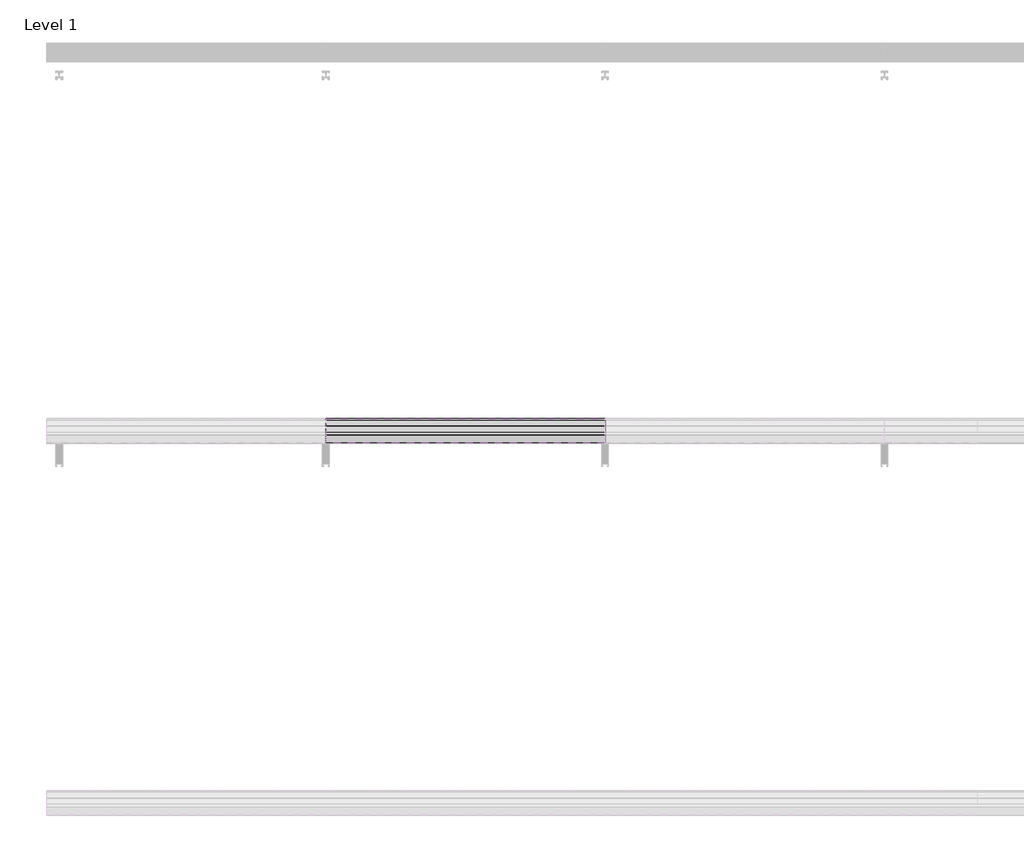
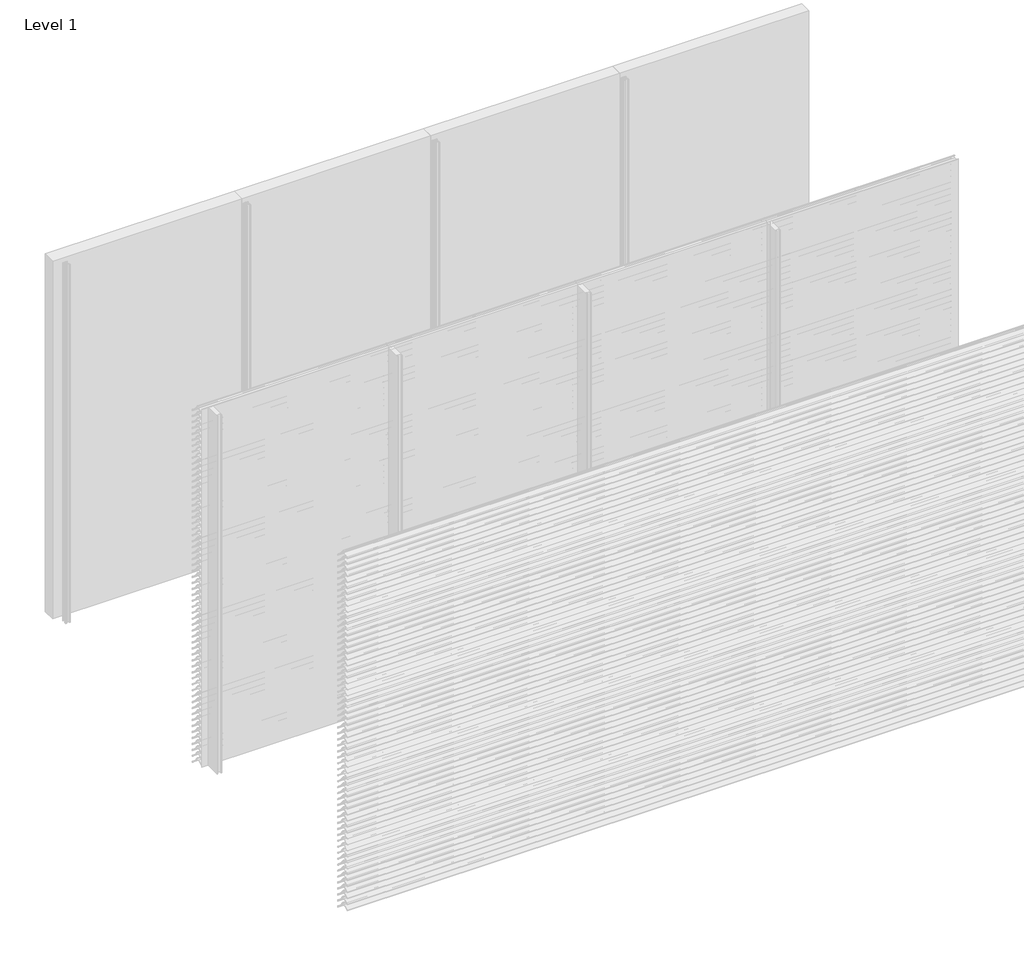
# One storey, part 29 of 173: 18 proxies.
"""IFC4 building model written with IfcOpenShell, lengths in millimetres."""

from ifc_helpers import new_model, si_unit, point, frame, frame_2d, origin, place, context, project, spatial, polyline, circle_curve, trimmed, segment, composite_curve, outline, extrude, element, save

model = new_model("IFC4")

# Units and contexts
model_context = context("Model", 3, world=origin())
ifc_project = project(units=[si_unit("LENGTHUNIT", "METRE", prefix="MILLI")], contexts=[model_context])

# Site, building, storey
site = spatial("IfcSite", under=ifc_project)
building = spatial("IfcBuilding", under=site)
storey = spatial("IfcBuildingStorey", under=building, Name="Level 1", Elevation=0.0)

# Proxies
placement = place(None, origin())
element("IfcBuildingElementProxy", 1, Name="Wall Sweeps", at=placement, inside=storey, context=model_context, shape_type="SweptSolid", body=[
    extrude(outline(composite_curve([segment(polyline([(-47998.0, 1259.1474905), (-47998.0, 1261.6227417)]), True, "CONTINUOUS"), segment(trimmed(circle_curve(frame_2d((-47951.2682172, 1216.2200208)), 65.1557103), [point((-47998.0, 1261.6227417))], [point((-47954.4014323, 1281.3003524))], False, "CARTESIAN"), True, "CONTINUOUS"), segment(polyline([(-47954.4014323, 1281.3003524), (-47934.8315836, 1281.3003524)]), True, "CONTINUOUS"), segment(trimmed(circle_curve(frame_2d((-47732.7329489, 1428.5533172)), 250.0545817), [point((-47934.8315836, 1281.3003524))], [point((-47941.4452143, 1290.8344583))], False, "CARTESIAN"), True, "CONTINUOUS"), segment(trimmed(circle_curve(frame_2d((-47953.2981792, 1285.1737835)), 13.1352966), [point((-47941.4452143, 1290.8344583))], [point((-47953.8171475, 1298.298824))], True, "CARTESIAN"), True, "CONTINUOUS"), segment(polyline([(-47953.8171475, 1298.298824), (-47953.8171475, 1300.0)]), True, "CONTINUOUS"), segment(trimmed(circle_curve(frame_2d((-47953.2981792, 1285.1737835)), 14.8352966), [point((-47953.8171475, 1300.0))], [point((-47939.9637661, 1291.6760487))], False, "CARTESIAN"), True, "CONTINUOUS"), segment(trimmed(circle_curve(frame_2d((-47732.7329489, 1428.5533172)), 248.3545817), [point((-47939.9637661, 1291.6760487))], [point((-47873.8787895, 1224.2059416))], True, "CARTESIAN"), True, "CONTINUOUS"), segment(trimmed(circle_curve(frame_2d((-47883.8147537, 1211.6649442)), 16.0), [point((-47873.8787895, 1224.2059416))], [point((-47867.8648347, 1210.4))], False, "CARTESIAN"), True, "CONTINUOUS"), segment(polyline([(-47867.8648347, 1210.4), (-47869.6712069, 1210.4)]), True, "CONTINUOUS"), segment(trimmed(circle_curve(frame_2d((-47883.8147537, 1211.6649442)), 14.2), [point((-47869.6712069, 1210.4))], [point((-47874.9518628, 1222.7594998))], True, "CARTESIAN"), True, "CONTINUOUS"), segment(trimmed(circle_curve(frame_2d((-47732.7329489, 1428.5533172)), 250.1545817), [point((-47874.9518628, 1222.7594998))], [point((-47933.7064024, 1279.6003524))], False, "CARTESIAN"), True, "CONTINUOUS"), segment(polyline([(-47933.7064024, 1279.6003524), (-47954.3602632, 1279.6003524)]), True, "CONTINUOUS"), segment(trimmed(circle_curve(frame_2d((-47951.2682172, 1216.2200208)), 63.4557103), [point((-47954.3602632, 1279.6003524))], [point((-47998.0, 1259.1474905))], True, "CARTESIAN"), True, "CONTINUOUS")], self_intersect=False)), frame((1500.0, 0.0, 0.0), z_axis=(1.0, 0.0, 0.0), x_axis=(0.0, 1.0, 0.0)), (0.0, 0.0, 1.0), 1500.0),
])
element("IfcBuildingElementProxy", 2, Name="Wall Sweeps", at=placement, inside=storey, context=model_context, shape_type="SweptSolid", body=[
    extrude(outline(composite_curve([segment(polyline([(-47998.0, 1209.1474905), (-47998.0, 1211.6227417)]), True, "CONTINUOUS"), segment(trimmed(circle_curve(frame_2d((-47951.2682172, 1166.2200208)), 65.1557103), [point((-47998.0, 1211.6227417))], [point((-47954.4014323, 1231.3003524))], False, "CARTESIAN"), True, "CONTINUOUS"), segment(polyline([(-47954.4014323, 1231.3003524), (-47934.8315836, 1231.3003524)]), True, "CONTINUOUS"), segment(trimmed(circle_curve(frame_2d((-47732.7329489, 1378.5533172)), 250.0545817), [point((-47934.8315836, 1231.3003524))], [point((-47941.4452143, 1240.8344583))], False, "CARTESIAN"), True, "CONTINUOUS"), segment(trimmed(circle_curve(frame_2d((-47953.2981792, 1235.1737835)), 13.1352966), [point((-47941.4452143, 1240.8344583))], [point((-47953.8171475, 1248.298824))], True, "CARTESIAN"), True, "CONTINUOUS"), segment(polyline([(-47953.8171475, 1248.298824), (-47953.8171475, 1250.0)]), True, "CONTINUOUS"), segment(trimmed(circle_curve(frame_2d((-47953.2981792, 1235.1737835)), 14.8352966), [point((-47953.8171475, 1250.0))], [point((-47939.9637661, 1241.6760487))], False, "CARTESIAN"), True, "CONTINUOUS"), segment(trimmed(circle_curve(frame_2d((-47732.7329489, 1378.5533172)), 248.3545817), [point((-47939.9637661, 1241.6760487))], [point((-47873.8787895, 1174.2059416))], True, "CARTESIAN"), True, "CONTINUOUS"), segment(trimmed(circle_curve(frame_2d((-47883.8147537, 1161.6649442)), 16.0), [point((-47873.8787895, 1174.2059416))], [point((-47867.8648347, 1160.4))], False, "CARTESIAN"), True, "CONTINUOUS"), segment(polyline([(-47867.8648347, 1160.4), (-47869.6712069, 1160.4)]), True, "CONTINUOUS"), segment(trimmed(circle_curve(frame_2d((-47883.8147537, 1161.6649442)), 14.2), [point((-47869.6712069, 1160.4))], [point((-47874.9518628, 1172.7594998))], True, "CARTESIAN"), True, "CONTINUOUS"), segment(trimmed(circle_curve(frame_2d((-47732.7329489, 1378.5533172)), 250.1545817), [point((-47874.9518628, 1172.7594998))], [point((-47933.7064024, 1229.6003524))], False, "CARTESIAN"), True, "CONTINUOUS"), segment(polyline([(-47933.7064024, 1229.6003524), (-47954.3602632, 1229.6003524)]), True, "CONTINUOUS"), segment(trimmed(circle_curve(frame_2d((-47951.2682172, 1166.2200208)), 63.4557103), [point((-47954.3602632, 1229.6003524))], [point((-47998.0, 1209.1474905))], True, "CARTESIAN"), True, "CONTINUOUS")], self_intersect=False)), frame((1500.0, 0.0, 0.0), z_axis=(1.0, 0.0, 0.0), x_axis=(0.0, 1.0, 0.0)), (0.0, 0.0, 1.0), 1500.0),
])
element("IfcBuildingElementProxy", 3, Name="Wall Sweeps", at=placement, inside=storey, context=model_context, shape_type="SweptSolid", body=[
    extrude(outline(composite_curve([segment(polyline([(-47998.0, 1159.1474905), (-47998.0, 1161.6227417)]), True, "CONTINUOUS"), segment(trimmed(circle_curve(frame_2d((-47951.2682172, 1116.2200208)), 65.1557103), [point((-47998.0, 1161.6227417))], [point((-47954.4014323, 1181.3003524))], False, "CARTESIAN"), True, "CONTINUOUS"), segment(polyline([(-47954.4014323, 1181.3003524), (-47934.8315836, 1181.3003524)]), True, "CONTINUOUS"), segment(trimmed(circle_curve(frame_2d((-47732.7329489, 1328.5533172)), 250.0545817), [point((-47934.8315836, 1181.3003524))], [point((-47941.4452143, 1190.8344583))], False, "CARTESIAN"), True, "CONTINUOUS"), segment(trimmed(circle_curve(frame_2d((-47953.2981792, 1185.1737835)), 13.1352966), [point((-47941.4452143, 1190.8344583))], [point((-47953.8171475, 1198.298824))], True, "CARTESIAN"), True, "CONTINUOUS"), segment(polyline([(-47953.8171475, 1198.298824), (-47953.8171475, 1200.0)]), True, "CONTINUOUS"), segment(trimmed(circle_curve(frame_2d((-47953.2981792, 1185.1737835)), 14.8352966), [point((-47953.8171475, 1200.0))], [point((-47939.9637661, 1191.6760487))], False, "CARTESIAN"), True, "CONTINUOUS"), segment(trimmed(circle_curve(frame_2d((-47732.7329489, 1328.5533172)), 248.3545817), [point((-47939.9637661, 1191.6760487))], [point((-47873.8787895, 1124.2059416))], True, "CARTESIAN"), True, "CONTINUOUS"), segment(trimmed(circle_curve(frame_2d((-47883.8147537, 1111.6649442)), 16.0), [point((-47873.8787895, 1124.2059416))], [point((-47867.8648347, 1110.4))], False, "CARTESIAN"), True, "CONTINUOUS"), segment(polyline([(-47867.8648347, 1110.4), (-47869.6712069, 1110.4)]), True, "CONTINUOUS"), segment(trimmed(circle_curve(frame_2d((-47883.8147537, 1111.6649442)), 14.2), [point((-47869.6712069, 1110.4))], [point((-47874.9518628, 1122.7594998))], True, "CARTESIAN"), True, "CONTINUOUS"), segment(trimmed(circle_curve(frame_2d((-47732.7329489, 1328.5533172)), 250.1545817), [point((-47874.9518628, 1122.7594998))], [point((-47933.7064024, 1179.6003524))], False, "CARTESIAN"), True, "CONTINUOUS"), segment(polyline([(-47933.7064024, 1179.6003524), (-47954.3602632, 1179.6003524)]), True, "CONTINUOUS"), segment(trimmed(circle_curve(frame_2d((-47951.2682172, 1116.2200208)), 63.4557103), [point((-47954.3602632, 1179.6003524))], [point((-47998.0, 1159.1474905))], True, "CARTESIAN"), True, "CONTINUOUS")], self_intersect=False)), frame((1500.0, 0.0, 0.0), z_axis=(1.0, 0.0, 0.0), x_axis=(0.0, 1.0, 0.0)), (0.0, 0.0, 1.0), 1500.0),
])
element("IfcBuildingElementProxy", 4, Name="Wall Sweeps", at=placement, inside=storey, context=model_context, shape_type="SweptSolid", body=[
    extrude(outline(composite_curve([segment(polyline([(-47998.0, 1109.1474905), (-47998.0, 1111.6227417)]), True, "CONTINUOUS"), segment(trimmed(circle_curve(frame_2d((-47951.2682172, 1066.2200208)), 65.1557103), [point((-47998.0, 1111.6227417))], [point((-47954.4014323, 1131.3003524))], False, "CARTESIAN"), True, "CONTINUOUS"), segment(polyline([(-47954.4014323, 1131.3003524), (-47934.8315836, 1131.3003524)]), True, "CONTINUOUS"), segment(trimmed(circle_curve(frame_2d((-47732.7329489, 1278.5533172)), 250.0545817), [point((-47934.8315836, 1131.3003524))], [point((-47941.4452143, 1140.8344583))], False, "CARTESIAN"), True, "CONTINUOUS"), segment(trimmed(circle_curve(frame_2d((-47953.2981792, 1135.1737835)), 13.1352966), [point((-47941.4452143, 1140.8344583))], [point((-47953.8171475, 1148.298824))], True, "CARTESIAN"), True, "CONTINUOUS"), segment(polyline([(-47953.8171475, 1148.298824), (-47953.8171475, 1150.0)]), True, "CONTINUOUS"), segment(trimmed(circle_curve(frame_2d((-47953.2981792, 1135.1737835)), 14.8352966), [point((-47953.8171475, 1150.0))], [point((-47939.9637661, 1141.6760487))], False, "CARTESIAN"), True, "CONTINUOUS"), segment(trimmed(circle_curve(frame_2d((-47732.7329489, 1278.5533172)), 248.3545817), [point((-47939.9637661, 1141.6760487))], [point((-47873.8787895, 1074.2059416))], True, "CARTESIAN"), True, "CONTINUOUS"), segment(trimmed(circle_curve(frame_2d((-47883.8147537, 1061.6649442)), 16.0), [point((-47873.8787895, 1074.2059416))], [point((-47867.8648347, 1060.4))], False, "CARTESIAN"), True, "CONTINUOUS"), segment(polyline([(-47867.8648347, 1060.4), (-47869.6712069, 1060.4)]), True, "CONTINUOUS"), segment(trimmed(circle_curve(frame_2d((-47883.8147537, 1061.6649442)), 14.2), [point((-47869.6712069, 1060.4))], [point((-47874.9518628, 1072.7594998))], True, "CARTESIAN"), True, "CONTINUOUS"), segment(trimmed(circle_curve(frame_2d((-47732.7329489, 1278.5533172)), 250.1545817), [point((-47874.9518628, 1072.7594998))], [point((-47933.7064024, 1129.6003524))], False, "CARTESIAN"), True, "CONTINUOUS"), segment(polyline([(-47933.7064024, 1129.6003524), (-47954.3602632, 1129.6003524)]), True, "CONTINUOUS"), segment(trimmed(circle_curve(frame_2d((-47951.2682172, 1066.2200208)), 63.4557103), [point((-47954.3602632, 1129.6003524))], [point((-47998.0, 1109.1474905))], True, "CARTESIAN"), True, "CONTINUOUS")], self_intersect=False)), frame((1500.0, 0.0, 0.0), z_axis=(1.0, 0.0, 0.0), x_axis=(0.0, 1.0, 0.0)), (0.0, 0.0, 1.0), 1500.0),
])
element("IfcBuildingElementProxy", 5, Name="Wall Sweeps", at=placement, inside=storey, context=model_context, shape_type="SweptSolid", body=[
    extrude(outline(composite_curve([segment(polyline([(-47998.0, 1059.1474905), (-47998.0, 1061.6227417)]), True, "CONTINUOUS"), segment(trimmed(circle_curve(frame_2d((-47951.2682172, 1016.2200208)), 65.1557103), [point((-47998.0, 1061.6227417))], [point((-47954.4014323, 1081.3003524))], False, "CARTESIAN"), True, "CONTINUOUS"), segment(polyline([(-47954.4014323, 1081.3003524), (-47934.8315836, 1081.3003524)]), True, "CONTINUOUS"), segment(trimmed(circle_curve(frame_2d((-47732.7329489, 1228.5533172)), 250.0545817), [point((-47934.8315836, 1081.3003524))], [point((-47941.4452143, 1090.8344583))], False, "CARTESIAN"), True, "CONTINUOUS"), segment(trimmed(circle_curve(frame_2d((-47953.2981792, 1085.1737835)), 13.1352966), [point((-47941.4452143, 1090.8344583))], [point((-47953.8171475, 1098.298824))], True, "CARTESIAN"), True, "CONTINUOUS"), segment(polyline([(-47953.8171475, 1098.298824), (-47953.8171475, 1100.0)]), True, "CONTINUOUS"), segment(trimmed(circle_curve(frame_2d((-47953.2981792, 1085.1737835)), 14.8352966), [point((-47953.8171475, 1100.0))], [point((-47939.9637661, 1091.6760487))], False, "CARTESIAN"), True, "CONTINUOUS"), segment(trimmed(circle_curve(frame_2d((-47732.7329489, 1228.5533172)), 248.3545817), [point((-47939.9637661, 1091.6760487))], [point((-47873.8787895, 1024.2059416))], True, "CARTESIAN"), True, "CONTINUOUS"), segment(trimmed(circle_curve(frame_2d((-47883.8147537, 1011.6649442)), 16.0), [point((-47873.8787895, 1024.2059416))], [point((-47867.8648347, 1010.4))], False, "CARTESIAN"), True, "CONTINUOUS"), segment(polyline([(-47867.8648347, 1010.4), (-47869.6712069, 1010.4)]), True, "CONTINUOUS"), segment(trimmed(circle_curve(frame_2d((-47883.8147537, 1011.6649442)), 14.2), [point((-47869.6712069, 1010.4))], [point((-47874.9518628, 1022.7594998))], True, "CARTESIAN"), True, "CONTINUOUS"), segment(trimmed(circle_curve(frame_2d((-47732.7329489, 1228.5533172)), 250.1545817), [point((-47874.9518628, 1022.7594998))], [point((-47933.7064024, 1079.6003524))], False, "CARTESIAN"), True, "CONTINUOUS"), segment(polyline([(-47933.7064024, 1079.6003524), (-47954.3602632, 1079.6003524)]), True, "CONTINUOUS"), segment(trimmed(circle_curve(frame_2d((-47951.2682172, 1016.2200208)), 63.4557103), [point((-47954.3602632, 1079.6003524))], [point((-47998.0, 1059.1474905))], True, "CARTESIAN"), True, "CONTINUOUS")], self_intersect=False)), frame((1500.0, 0.0, 0.0), z_axis=(1.0, 0.0, 0.0), x_axis=(0.0, 1.0, 0.0)), (0.0, 0.0, 1.0), 1500.0),
])
element("IfcBuildingElementProxy", 6, Name="Wall Sweeps", at=placement, inside=storey, context=model_context, shape_type="SweptSolid", body=[
    extrude(outline(composite_curve([segment(polyline([(-47998.0, 1009.1474905), (-47998.0, 1011.6227417)]), True, "CONTINUOUS"), segment(trimmed(circle_curve(frame_2d((-47951.2682172, 966.2200208)), 65.1557103), [point((-47998.0, 1011.6227417))], [point((-47954.4014323, 1031.3003524))], False, "CARTESIAN"), True, "CONTINUOUS"), segment(polyline([(-47954.4014323, 1031.3003524), (-47934.8315836, 1031.3003524)]), True, "CONTINUOUS"), segment(trimmed(circle_curve(frame_2d((-47732.7329489, 1178.5533172)), 250.0545817), [point((-47934.8315836, 1031.3003524))], [point((-47941.4452143, 1040.8344583))], False, "CARTESIAN"), True, "CONTINUOUS"), segment(trimmed(circle_curve(frame_2d((-47953.2981792, 1035.1737835)), 13.1352966), [point((-47941.4452143, 1040.8344583))], [point((-47953.8171475, 1048.298824))], True, "CARTESIAN"), True, "CONTINUOUS"), segment(polyline([(-47953.8171475, 1048.298824), (-47953.8171475, 1050.0)]), True, "CONTINUOUS"), segment(trimmed(circle_curve(frame_2d((-47953.2981792, 1035.1737835)), 14.8352966), [point((-47953.8171475, 1050.0))], [point((-47939.9637661, 1041.6760487))], False, "CARTESIAN"), True, "CONTINUOUS"), segment(trimmed(circle_curve(frame_2d((-47732.7329489, 1178.5533172)), 248.3545817), [point((-47939.9637661, 1041.6760487))], [point((-47873.8787895, 974.2059416))], True, "CARTESIAN"), True, "CONTINUOUS"), segment(trimmed(circle_curve(frame_2d((-47883.8147537, 961.6649442)), 16.0), [point((-47873.8787895, 974.2059416))], [point((-47867.8648347, 960.4))], False, "CARTESIAN"), True, "CONTINUOUS"), segment(polyline([(-47867.8648347, 960.4), (-47869.6712069, 960.4)]), True, "CONTINUOUS"), segment(trimmed(circle_curve(frame_2d((-47883.8147537, 961.6649442)), 14.2), [point((-47869.6712069, 960.4))], [point((-47874.9518628, 972.7594998))], True, "CARTESIAN"), True, "CONTINUOUS"), segment(trimmed(circle_curve(frame_2d((-47732.7329489, 1178.5533172)), 250.1545817), [point((-47874.9518628, 972.7594998))], [point((-47933.7064024, 1029.6003524))], False, "CARTESIAN"), True, "CONTINUOUS"), segment(polyline([(-47933.7064024, 1029.6003524), (-47954.3602632, 1029.6003524)]), True, "CONTINUOUS"), segment(trimmed(circle_curve(frame_2d((-47951.2682172, 966.2200208)), 63.4557103), [point((-47954.3602632, 1029.6003524))], [point((-47998.0, 1009.1474905))], True, "CARTESIAN"), True, "CONTINUOUS")], self_intersect=False)), frame((1500.0, 0.0, 0.0), z_axis=(1.0, 0.0, 0.0), x_axis=(0.0, 1.0, 0.0)), (0.0, 0.0, 1.0), 1500.0),
])
element("IfcBuildingElementProxy", 7, Name="Wall Sweeps", at=placement, inside=storey, context=model_context, shape_type="SweptSolid", body=[
    extrude(outline(composite_curve([segment(polyline([(-47998.0, 959.1474905), (-47998.0, 961.6227417)]), True, "CONTINUOUS"), segment(trimmed(circle_curve(frame_2d((-47951.2682172, 916.2200208)), 65.1557103), [point((-47998.0, 961.6227417))], [point((-47954.4014323, 981.3003524))], False, "CARTESIAN"), True, "CONTINUOUS"), segment(polyline([(-47954.4014323, 981.3003524), (-47934.8315836, 981.3003524)]), True, "CONTINUOUS"), segment(trimmed(circle_curve(frame_2d((-47732.7329489, 1128.5533172)), 250.0545817), [point((-47934.8315836, 981.3003524))], [point((-47941.4452143, 990.8344583))], False, "CARTESIAN"), True, "CONTINUOUS"), segment(trimmed(circle_curve(frame_2d((-47953.2981792, 985.1737835)), 13.1352966), [point((-47941.4452143, 990.8344583))], [point((-47953.8171475, 998.298824))], True, "CARTESIAN"), True, "CONTINUOUS"), segment(polyline([(-47953.8171475, 998.298824), (-47953.8171475, 1000.0)]), True, "CONTINUOUS"), segment(trimmed(circle_curve(frame_2d((-47953.2981792, 985.1737835)), 14.8352966), [point((-47953.8171475, 1000.0))], [point((-47939.9637661, 991.6760487))], False, "CARTESIAN"), True, "CONTINUOUS"), segment(trimmed(circle_curve(frame_2d((-47732.7329489, 1128.5533172)), 248.3545817), [point((-47939.9637661, 991.6760487))], [point((-47873.8787895, 924.2059416))], True, "CARTESIAN"), True, "CONTINUOUS"), segment(trimmed(circle_curve(frame_2d((-47883.8147537, 911.6649442)), 16.0), [point((-47873.8787895, 924.2059416))], [point((-47867.8648347, 910.4))], False, "CARTESIAN"), True, "CONTINUOUS"), segment(polyline([(-47867.8648347, 910.4), (-47869.6712069, 910.4)]), True, "CONTINUOUS"), segment(trimmed(circle_curve(frame_2d((-47883.8147537, 911.6649442)), 14.2), [point((-47869.6712069, 910.4))], [point((-47874.9518628, 922.7594998))], True, "CARTESIAN"), True, "CONTINUOUS"), segment(trimmed(circle_curve(frame_2d((-47732.7329489, 1128.5533172)), 250.1545817), [point((-47874.9518628, 922.7594998))], [point((-47933.7064024, 979.6003524))], False, "CARTESIAN"), True, "CONTINUOUS"), segment(polyline([(-47933.7064024, 979.6003524), (-47954.3602632, 979.6003524)]), True, "CONTINUOUS"), segment(trimmed(circle_curve(frame_2d((-47951.2682172, 916.2200208)), 63.4557103), [point((-47954.3602632, 979.6003524))], [point((-47998.0, 959.1474905))], True, "CARTESIAN"), True, "CONTINUOUS")], self_intersect=False)), frame((1500.0, 0.0, 0.0), z_axis=(1.0, 0.0, 0.0), x_axis=(0.0, 1.0, 0.0)), (0.0, 0.0, 1.0), 1500.0),
])
element("IfcBuildingElementProxy", 8, Name="Wall Sweeps", at=placement, inside=storey, context=model_context, shape_type="SweptSolid", body=[
    extrude(outline(composite_curve([segment(polyline([(-47998.0, 909.1474905), (-47998.0, 911.6227417)]), True, "CONTINUOUS"), segment(trimmed(circle_curve(frame_2d((-47951.2682172, 866.2200208)), 65.1557103), [point((-47998.0, 911.6227417))], [point((-47954.4014323, 931.3003524))], False, "CARTESIAN"), True, "CONTINUOUS"), segment(polyline([(-47954.4014323, 931.3003524), (-47934.8315836, 931.3003524)]), True, "CONTINUOUS"), segment(trimmed(circle_curve(frame_2d((-47732.7329489, 1078.5533172)), 250.0545817), [point((-47934.8315836, 931.3003524))], [point((-47941.4452143, 940.8344583))], False, "CARTESIAN"), True, "CONTINUOUS"), segment(trimmed(circle_curve(frame_2d((-47953.2981792, 935.1737835)), 13.1352966), [point((-47941.4452143, 940.8344583))], [point((-47953.8171475, 948.298824))], True, "CARTESIAN"), True, "CONTINUOUS"), segment(polyline([(-47953.8171475, 948.298824), (-47953.8171475, 950.0)]), True, "CONTINUOUS"), segment(trimmed(circle_curve(frame_2d((-47953.2981792, 935.1737835)), 14.8352966), [point((-47953.8171475, 950.0))], [point((-47939.9637661, 941.6760487))], False, "CARTESIAN"), True, "CONTINUOUS"), segment(trimmed(circle_curve(frame_2d((-47732.7329489, 1078.5533172)), 248.3545817), [point((-47939.9637661, 941.6760487))], [point((-47873.8787895, 874.2059416))], True, "CARTESIAN"), True, "CONTINUOUS"), segment(trimmed(circle_curve(frame_2d((-47883.8147537, 861.6649442)), 16.0), [point((-47873.8787895, 874.2059416))], [point((-47867.8648347, 860.4))], False, "CARTESIAN"), True, "CONTINUOUS"), segment(polyline([(-47867.8648347, 860.4), (-47869.6712069, 860.4)]), True, "CONTINUOUS"), segment(trimmed(circle_curve(frame_2d((-47883.8147537, 861.6649442)), 14.2), [point((-47869.6712069, 860.4))], [point((-47874.9518628, 872.7594998))], True, "CARTESIAN"), True, "CONTINUOUS"), segment(trimmed(circle_curve(frame_2d((-47732.7329489, 1078.5533172)), 250.1545817), [point((-47874.9518628, 872.7594998))], [point((-47933.7064024, 929.6003524))], False, "CARTESIAN"), True, "CONTINUOUS"), segment(polyline([(-47933.7064024, 929.6003524), (-47954.3602632, 929.6003524)]), True, "CONTINUOUS"), segment(trimmed(circle_curve(frame_2d((-47951.2682172, 866.2200208)), 63.4557103), [point((-47954.3602632, 929.6003524))], [point((-47998.0, 909.1474905))], True, "CARTESIAN"), True, "CONTINUOUS")], self_intersect=False)), frame((1500.0, 0.0, 0.0), z_axis=(1.0, 0.0, 0.0), x_axis=(0.0, 1.0, 0.0)), (0.0, 0.0, 1.0), 1500.0),
])
element("IfcBuildingElementProxy", 9, Name="Wall Sweeps", at=placement, inside=storey, context=model_context, shape_type="SweptSolid", body=[
    extrude(outline(composite_curve([segment(polyline([(-47998.0, 859.1474905), (-47998.0, 861.6227417)]), True, "CONTINUOUS"), segment(trimmed(circle_curve(frame_2d((-47951.2682172, 816.2200208)), 65.1557103), [point((-47998.0, 861.6227417))], [point((-47954.4014323, 881.3003524))], False, "CARTESIAN"), True, "CONTINUOUS"), segment(polyline([(-47954.4014323, 881.3003524), (-47934.8315836, 881.3003524)]), True, "CONTINUOUS"), segment(trimmed(circle_curve(frame_2d((-47732.7329489, 1028.5533172)), 250.0545817), [point((-47934.8315836, 881.3003524))], [point((-47941.4452143, 890.8344583))], False, "CARTESIAN"), True, "CONTINUOUS"), segment(trimmed(circle_curve(frame_2d((-47953.2981792, 885.1737835)), 13.1352966), [point((-47941.4452143, 890.8344583))], [point((-47953.8171475, 898.298824))], True, "CARTESIAN"), True, "CONTINUOUS"), segment(polyline([(-47953.8171475, 898.298824), (-47953.8171475, 900.0)]), True, "CONTINUOUS"), segment(trimmed(circle_curve(frame_2d((-47953.2981792, 885.1737835)), 14.8352966), [point((-47953.8171475, 900.0))], [point((-47939.9637661, 891.6760487))], False, "CARTESIAN"), True, "CONTINUOUS"), segment(trimmed(circle_curve(frame_2d((-47732.7329489, 1028.5533172)), 248.3545817), [point((-47939.9637661, 891.6760487))], [point((-47873.8787895, 824.2059416))], True, "CARTESIAN"), True, "CONTINUOUS"), segment(trimmed(circle_curve(frame_2d((-47883.8147537, 811.6649442)), 16.0), [point((-47873.8787895, 824.2059416))], [point((-47867.8648347, 810.4))], False, "CARTESIAN"), True, "CONTINUOUS"), segment(polyline([(-47867.8648347, 810.4), (-47869.6712069, 810.4)]), True, "CONTINUOUS"), segment(trimmed(circle_curve(frame_2d((-47883.8147537, 811.6649442)), 14.2), [point((-47869.6712069, 810.4))], [point((-47874.9518628, 822.7594998))], True, "CARTESIAN"), True, "CONTINUOUS"), segment(trimmed(circle_curve(frame_2d((-47732.7329489, 1028.5533172)), 250.1545817), [point((-47874.9518628, 822.7594998))], [point((-47933.7064024, 879.6003524))], False, "CARTESIAN"), True, "CONTINUOUS"), segment(polyline([(-47933.7064024, 879.6003524), (-47954.3602632, 879.6003524)]), True, "CONTINUOUS"), segment(trimmed(circle_curve(frame_2d((-47951.2682172, 816.2200208)), 63.4557103), [point((-47954.3602632, 879.6003524))], [point((-47998.0, 859.1474905))], True, "CARTESIAN"), True, "CONTINUOUS")], self_intersect=False)), frame((1500.0, 0.0, 0.0), z_axis=(1.0, 0.0, 0.0), x_axis=(0.0, 1.0, 0.0)), (0.0, 0.0, 1.0), 1500.0),
])
element("IfcBuildingElementProxy", 10, Name="Wall Sweeps", at=placement, inside=storey, context=model_context, shape_type="SweptSolid", body=[
    extrude(outline(composite_curve([segment(polyline([(-47998.0, 809.1474905), (-47998.0, 811.6227417)]), True, "CONTINUOUS"), segment(trimmed(circle_curve(frame_2d((-47951.2682172, 766.2200208)), 65.1557103), [point((-47998.0, 811.6227417))], [point((-47954.4014323, 831.3003524))], False, "CARTESIAN"), True, "CONTINUOUS"), segment(polyline([(-47954.4014323, 831.3003524), (-47934.8315836, 831.3003524)]), True, "CONTINUOUS"), segment(trimmed(circle_curve(frame_2d((-47732.7329489, 978.5533172)), 250.0545817), [point((-47934.8315836, 831.3003524))], [point((-47941.4452143, 840.8344583))], False, "CARTESIAN"), True, "CONTINUOUS"), segment(trimmed(circle_curve(frame_2d((-47953.2981792, 835.1737835)), 13.1352966), [point((-47941.4452143, 840.8344583))], [point((-47953.8171475, 848.298824))], True, "CARTESIAN"), True, "CONTINUOUS"), segment(polyline([(-47953.8171475, 848.298824), (-47953.8171475, 850.0)]), True, "CONTINUOUS"), segment(trimmed(circle_curve(frame_2d((-47953.2981792, 835.1737835)), 14.8352966), [point((-47953.8171475, 850.0))], [point((-47939.9637661, 841.6760487))], False, "CARTESIAN"), True, "CONTINUOUS"), segment(trimmed(circle_curve(frame_2d((-47732.7329489, 978.5533172)), 248.3545817), [point((-47939.9637661, 841.6760487))], [point((-47873.8787895, 774.2059416))], True, "CARTESIAN"), True, "CONTINUOUS"), segment(trimmed(circle_curve(frame_2d((-47883.8147537, 761.6649442)), 16.0), [point((-47873.8787895, 774.2059416))], [point((-47867.8648347, 760.4))], False, "CARTESIAN"), True, "CONTINUOUS"), segment(polyline([(-47867.8648347, 760.4), (-47869.6712069, 760.4)]), True, "CONTINUOUS"), segment(trimmed(circle_curve(frame_2d((-47883.8147537, 761.6649442)), 14.2), [point((-47869.6712069, 760.4))], [point((-47874.9518628, 772.7594998))], True, "CARTESIAN"), True, "CONTINUOUS"), segment(trimmed(circle_curve(frame_2d((-47732.7329489, 978.5533172)), 250.1545817), [point((-47874.9518628, 772.7594998))], [point((-47933.7064024, 829.6003524))], False, "CARTESIAN"), True, "CONTINUOUS"), segment(polyline([(-47933.7064024, 829.6003524), (-47954.3602632, 829.6003524)]), True, "CONTINUOUS"), segment(trimmed(circle_curve(frame_2d((-47951.2682172, 766.2200208)), 63.4557103), [point((-47954.3602632, 829.6003524))], [point((-47998.0, 809.1474905))], True, "CARTESIAN"), True, "CONTINUOUS")], self_intersect=False)), frame((1500.0, 0.0, 0.0), z_axis=(1.0, 0.0, 0.0), x_axis=(0.0, 1.0, 0.0)), (0.0, 0.0, 1.0), 1500.0),
])
element("IfcBuildingElementProxy", 11, Name="Wall Sweeps", at=placement, inside=storey, context=model_context, shape_type="SweptSolid", body=[
    extrude(outline(composite_curve([segment(polyline([(-47998.0, 759.1474905), (-47998.0, 761.6227417)]), True, "CONTINUOUS"), segment(trimmed(circle_curve(frame_2d((-47951.2682172, 716.2200208)), 65.1557103), [point((-47998.0, 761.6227417))], [point((-47954.4014323, 781.3003524))], False, "CARTESIAN"), True, "CONTINUOUS"), segment(polyline([(-47954.4014323, 781.3003524), (-47934.8315836, 781.3003524)]), True, "CONTINUOUS"), segment(trimmed(circle_curve(frame_2d((-47732.7329489, 928.5533172)), 250.0545817), [point((-47934.8315836, 781.3003524))], [point((-47941.4452143, 790.8344583))], False, "CARTESIAN"), True, "CONTINUOUS"), segment(trimmed(circle_curve(frame_2d((-47953.2981792, 785.1737835)), 13.1352966), [point((-47941.4452143, 790.8344583))], [point((-47953.8171475, 798.298824))], True, "CARTESIAN"), True, "CONTINUOUS"), segment(polyline([(-47953.8171475, 798.298824), (-47953.8171475, 800.0)]), True, "CONTINUOUS"), segment(trimmed(circle_curve(frame_2d((-47953.2981792, 785.1737835)), 14.8352966), [point((-47953.8171475, 800.0))], [point((-47939.9637661, 791.6760487))], False, "CARTESIAN"), True, "CONTINUOUS"), segment(trimmed(circle_curve(frame_2d((-47732.7329489, 928.5533172)), 248.3545817), [point((-47939.9637661, 791.6760487))], [point((-47873.8787895, 724.2059416))], True, "CARTESIAN"), True, "CONTINUOUS"), segment(trimmed(circle_curve(frame_2d((-47883.8147537, 711.6649442)), 16.0), [point((-47873.8787895, 724.2059416))], [point((-47867.8648347, 710.4))], False, "CARTESIAN"), True, "CONTINUOUS"), segment(polyline([(-47867.8648347, 710.4), (-47869.6712069, 710.4)]), True, "CONTINUOUS"), segment(trimmed(circle_curve(frame_2d((-47883.8147537, 711.6649442)), 14.2), [point((-47869.6712069, 710.4))], [point((-47874.9518628, 722.7594998))], True, "CARTESIAN"), True, "CONTINUOUS"), segment(trimmed(circle_curve(frame_2d((-47732.7329489, 928.5533172)), 250.1545817), [point((-47874.9518628, 722.7594998))], [point((-47933.7064024, 779.6003524))], False, "CARTESIAN"), True, "CONTINUOUS"), segment(polyline([(-47933.7064024, 779.6003524), (-47954.3602632, 779.6003524)]), True, "CONTINUOUS"), segment(trimmed(circle_curve(frame_2d((-47951.2682172, 716.2200208)), 63.4557103), [point((-47954.3602632, 779.6003524))], [point((-47998.0, 759.1474905))], True, "CARTESIAN"), True, "CONTINUOUS")], self_intersect=False)), frame((1500.0, 0.0, 0.0), z_axis=(1.0, 0.0, 0.0), x_axis=(0.0, 1.0, 0.0)), (0.0, 0.0, 1.0), 1500.0),
])
element("IfcBuildingElementProxy", 12, Name="Wall Sweeps", at=placement, inside=storey, context=model_context, shape_type="SweptSolid", body=[
    extrude(outline(composite_curve([segment(polyline([(-47998.0, 709.1474905), (-47998.0, 711.6227417)]), True, "CONTINUOUS"), segment(trimmed(circle_curve(frame_2d((-47951.2682172, 666.2200208)), 65.1557103), [point((-47998.0, 711.6227417))], [point((-47954.4014323, 731.3003524))], False, "CARTESIAN"), True, "CONTINUOUS"), segment(polyline([(-47954.4014323, 731.3003524), (-47934.8315836, 731.3003524)]), True, "CONTINUOUS"), segment(trimmed(circle_curve(frame_2d((-47732.7329489, 878.5533172)), 250.0545817), [point((-47934.8315836, 731.3003524))], [point((-47941.4452143, 740.8344583))], False, "CARTESIAN"), True, "CONTINUOUS"), segment(trimmed(circle_curve(frame_2d((-47953.2981792, 735.1737835)), 13.1352966), [point((-47941.4452143, 740.8344583))], [point((-47953.8171475, 748.298824))], True, "CARTESIAN"), True, "CONTINUOUS"), segment(polyline([(-47953.8171475, 748.298824), (-47953.8171475, 750.0)]), True, "CONTINUOUS"), segment(trimmed(circle_curve(frame_2d((-47953.2981792, 735.1737835)), 14.8352966), [point((-47953.8171475, 750.0))], [point((-47939.9637661, 741.6760487))], False, "CARTESIAN"), True, "CONTINUOUS"), segment(trimmed(circle_curve(frame_2d((-47732.7329489, 878.5533172)), 248.3545817), [point((-47939.9637661, 741.6760487))], [point((-47873.8787895, 674.2059416))], True, "CARTESIAN"), True, "CONTINUOUS"), segment(trimmed(circle_curve(frame_2d((-47883.8147537, 661.6649442)), 16.0), [point((-47873.8787895, 674.2059416))], [point((-47867.8648347, 660.4))], False, "CARTESIAN"), True, "CONTINUOUS"), segment(polyline([(-47867.8648347, 660.4), (-47869.6712069, 660.4)]), True, "CONTINUOUS"), segment(trimmed(circle_curve(frame_2d((-47883.8147537, 661.6649442)), 14.2), [point((-47869.6712069, 660.4))], [point((-47874.9518628, 672.7594998))], True, "CARTESIAN"), True, "CONTINUOUS"), segment(trimmed(circle_curve(frame_2d((-47732.7329489, 878.5533172)), 250.1545817), [point((-47874.9518628, 672.7594998))], [point((-47933.7064024, 729.6003524))], False, "CARTESIAN"), True, "CONTINUOUS"), segment(polyline([(-47933.7064024, 729.6003524), (-47954.3602632, 729.6003524)]), True, "CONTINUOUS"), segment(trimmed(circle_curve(frame_2d((-47951.2682172, 666.2200208)), 63.4557103), [point((-47954.3602632, 729.6003524))], [point((-47998.0, 709.1474905))], True, "CARTESIAN"), True, "CONTINUOUS")], self_intersect=False)), frame((1500.0, 0.0, 0.0), z_axis=(1.0, 0.0, 0.0), x_axis=(0.0, 1.0, 0.0)), (0.0, 0.0, 1.0), 1500.0),
])
element("IfcBuildingElementProxy", 13, Name="Wall Sweeps", at=placement, inside=storey, context=model_context, shape_type="SweptSolid", body=[
    extrude(outline(composite_curve([segment(polyline([(-47998.0, 659.1474905), (-47998.0, 661.6227417)]), True, "CONTINUOUS"), segment(trimmed(circle_curve(frame_2d((-47951.2682172, 616.2200208)), 65.1557103), [point((-47998.0, 661.6227417))], [point((-47954.4014323, 681.3003524))], False, "CARTESIAN"), True, "CONTINUOUS"), segment(polyline([(-47954.4014323, 681.3003524), (-47934.8315836, 681.3003524)]), True, "CONTINUOUS"), segment(trimmed(circle_curve(frame_2d((-47732.7329489, 828.5533172)), 250.0545817), [point((-47934.8315836, 681.3003524))], [point((-47941.4452143, 690.8344583))], False, "CARTESIAN"), True, "CONTINUOUS"), segment(trimmed(circle_curve(frame_2d((-47953.2981792, 685.1737835)), 13.1352966), [point((-47941.4452143, 690.8344583))], [point((-47953.8171475, 698.298824))], True, "CARTESIAN"), True, "CONTINUOUS"), segment(polyline([(-47953.8171475, 698.298824), (-47953.8171475, 700.0)]), True, "CONTINUOUS"), segment(trimmed(circle_curve(frame_2d((-47953.2981792, 685.1737835)), 14.8352966), [point((-47953.8171475, 700.0))], [point((-47939.9637661, 691.6760487))], False, "CARTESIAN"), True, "CONTINUOUS"), segment(trimmed(circle_curve(frame_2d((-47732.7329489, 828.5533172)), 248.3545817), [point((-47939.9637661, 691.6760487))], [point((-47873.8787895, 624.2059416))], True, "CARTESIAN"), True, "CONTINUOUS"), segment(trimmed(circle_curve(frame_2d((-47883.8147537, 611.6649442)), 16.0), [point((-47873.8787895, 624.2059416))], [point((-47867.8648347, 610.4))], False, "CARTESIAN"), True, "CONTINUOUS"), segment(polyline([(-47867.8648347, 610.4), (-47869.6712069, 610.4)]), True, "CONTINUOUS"), segment(trimmed(circle_curve(frame_2d((-47883.8147537, 611.6649442)), 14.2), [point((-47869.6712069, 610.4))], [point((-47874.9518628, 622.7594998))], True, "CARTESIAN"), True, "CONTINUOUS"), segment(trimmed(circle_curve(frame_2d((-47732.7329489, 828.5533172)), 250.1545817), [point((-47874.9518628, 622.7594998))], [point((-47933.7064024, 679.6003524))], False, "CARTESIAN"), True, "CONTINUOUS"), segment(polyline([(-47933.7064024, 679.6003524), (-47954.3602632, 679.6003524)]), True, "CONTINUOUS"), segment(trimmed(circle_curve(frame_2d((-47951.2682172, 616.2200208)), 63.4557103), [point((-47954.3602632, 679.6003524))], [point((-47998.0, 659.1474905))], True, "CARTESIAN"), True, "CONTINUOUS")], self_intersect=False)), frame((1500.0, 0.0, 0.0), z_axis=(1.0, 0.0, 0.0), x_axis=(0.0, 1.0, 0.0)), (0.0, 0.0, 1.0), 1500.0),
])
element("IfcBuildingElementProxy", 14, Name="Wall Sweeps", at=placement, inside=storey, context=model_context, shape_type="SweptSolid", body=[
    extrude(outline(composite_curve([segment(polyline([(-47998.0, 609.1474905), (-47998.0, 611.6227417)]), True, "CONTINUOUS"), segment(trimmed(circle_curve(frame_2d((-47951.2682172, 566.2200208)), 65.1557103), [point((-47998.0, 611.6227417))], [point((-47954.4014323, 631.3003524))], False, "CARTESIAN"), True, "CONTINUOUS"), segment(polyline([(-47954.4014323, 631.3003524), (-47934.8315836, 631.3003524)]), True, "CONTINUOUS"), segment(trimmed(circle_curve(frame_2d((-47732.7329489, 778.5533172)), 250.0545817), [point((-47934.8315836, 631.3003524))], [point((-47941.4452143, 640.8344583))], False, "CARTESIAN"), True, "CONTINUOUS"), segment(trimmed(circle_curve(frame_2d((-47953.2981792, 635.1737835)), 13.1352966), [point((-47941.4452143, 640.8344583))], [point((-47953.8171475, 648.298824))], True, "CARTESIAN"), True, "CONTINUOUS"), segment(polyline([(-47953.8171475, 648.298824), (-47953.8171475, 650.0)]), True, "CONTINUOUS"), segment(trimmed(circle_curve(frame_2d((-47953.2981792, 635.1737835)), 14.8352966), [point((-47953.8171475, 650.0))], [point((-47939.9637661, 641.6760487))], False, "CARTESIAN"), True, "CONTINUOUS"), segment(trimmed(circle_curve(frame_2d((-47732.7329489, 778.5533172)), 248.3545817), [point((-47939.9637661, 641.6760487))], [point((-47873.8787895, 574.2059416))], True, "CARTESIAN"), True, "CONTINUOUS"), segment(trimmed(circle_curve(frame_2d((-47883.8147537, 561.6649442)), 16.0), [point((-47873.8787895, 574.2059416))], [point((-47867.8648347, 560.4))], False, "CARTESIAN"), True, "CONTINUOUS"), segment(polyline([(-47867.8648347, 560.4), (-47869.6712069, 560.4)]), True, "CONTINUOUS"), segment(trimmed(circle_curve(frame_2d((-47883.8147537, 561.6649442)), 14.2), [point((-47869.6712069, 560.4))], [point((-47874.9518628, 572.7594998))], True, "CARTESIAN"), True, "CONTINUOUS"), segment(trimmed(circle_curve(frame_2d((-47732.7329489, 778.5533172)), 250.1545817), [point((-47874.9518628, 572.7594998))], [point((-47933.7064024, 629.6003524))], False, "CARTESIAN"), True, "CONTINUOUS"), segment(polyline([(-47933.7064024, 629.6003524), (-47954.3602632, 629.6003524)]), True, "CONTINUOUS"), segment(trimmed(circle_curve(frame_2d((-47951.2682172, 566.2200208)), 63.4557103), [point((-47954.3602632, 629.6003524))], [point((-47998.0, 609.1474905))], True, "CARTESIAN"), True, "CONTINUOUS")], self_intersect=False)), frame((1500.0, 0.0, 0.0), z_axis=(1.0, 0.0, 0.0), x_axis=(0.0, 1.0, 0.0)), (0.0, 0.0, 1.0), 1500.0),
])
element("IfcBuildingElementProxy", 15, Name="Wall Sweeps", at=placement, inside=storey, context=model_context, shape_type="SweptSolid", body=[
    extrude(outline(composite_curve([segment(polyline([(-47998.0, 559.1474905), (-47998.0, 561.6227417)]), True, "CONTINUOUS"), segment(trimmed(circle_curve(frame_2d((-47951.2682172, 516.2200208)), 65.1557103), [point((-47998.0, 561.6227417))], [point((-47954.4014323, 581.3003524))], False, "CARTESIAN"), True, "CONTINUOUS"), segment(polyline([(-47954.4014323, 581.3003524), (-47934.8315836, 581.3003524)]), True, "CONTINUOUS"), segment(trimmed(circle_curve(frame_2d((-47732.7329489, 728.5533172)), 250.0545817), [point((-47934.8315836, 581.3003524))], [point((-47941.4452143, 590.8344583))], False, "CARTESIAN"), True, "CONTINUOUS"), segment(trimmed(circle_curve(frame_2d((-47953.2981792, 585.1737835)), 13.1352966), [point((-47941.4452143, 590.8344583))], [point((-47953.8171475, 598.298824))], True, "CARTESIAN"), True, "CONTINUOUS"), segment(polyline([(-47953.8171475, 598.298824), (-47953.8171475, 600.0)]), True, "CONTINUOUS"), segment(trimmed(circle_curve(frame_2d((-47953.2981792, 585.1737835)), 14.8352966), [point((-47953.8171475, 600.0))], [point((-47939.9637661, 591.6760487))], False, "CARTESIAN"), True, "CONTINUOUS"), segment(trimmed(circle_curve(frame_2d((-47732.7329489, 728.5533172)), 248.3545817), [point((-47939.9637661, 591.6760487))], [point((-47873.8787895, 524.2059416))], True, "CARTESIAN"), True, "CONTINUOUS"), segment(trimmed(circle_curve(frame_2d((-47883.8147537, 511.6649442)), 16.0), [point((-47873.8787895, 524.2059416))], [point((-47867.8648347, 510.4))], False, "CARTESIAN"), True, "CONTINUOUS"), segment(polyline([(-47867.8648347, 510.4), (-47869.6712069, 510.4)]), True, "CONTINUOUS"), segment(trimmed(circle_curve(frame_2d((-47883.8147537, 511.6649442)), 14.2), [point((-47869.6712069, 510.4))], [point((-47874.9518628, 522.7594998))], True, "CARTESIAN"), True, "CONTINUOUS"), segment(trimmed(circle_curve(frame_2d((-47732.7329489, 728.5533172)), 250.1545817), [point((-47874.9518628, 522.7594998))], [point((-47933.7064024, 579.6003524))], False, "CARTESIAN"), True, "CONTINUOUS"), segment(polyline([(-47933.7064024, 579.6003524), (-47954.3602632, 579.6003524)]), True, "CONTINUOUS"), segment(trimmed(circle_curve(frame_2d((-47951.2682172, 516.2200208)), 63.4557103), [point((-47954.3602632, 579.6003524))], [point((-47998.0, 559.1474905))], True, "CARTESIAN"), True, "CONTINUOUS")], self_intersect=False)), frame((1500.0, 0.0, 0.0), z_axis=(1.0, 0.0, 0.0), x_axis=(0.0, 1.0, 0.0)), (0.0, 0.0, 1.0), 1500.0),
])
element("IfcBuildingElementProxy", 16, Name="Wall Sweeps", at=placement, inside=storey, context=model_context, shape_type="SweptSolid", body=[
    extrude(outline(composite_curve([segment(polyline([(-47998.0, 509.1474905), (-47998.0, 511.6227417)]), True, "CONTINUOUS"), segment(trimmed(circle_curve(frame_2d((-47951.2682172, 466.2200208)), 65.1557103), [point((-47998.0, 511.6227417))], [point((-47954.4014323, 531.3003524))], False, "CARTESIAN"), True, "CONTINUOUS"), segment(polyline([(-47954.4014323, 531.3003524), (-47934.8315836, 531.3003524)]), True, "CONTINUOUS"), segment(trimmed(circle_curve(frame_2d((-47732.7329489, 678.5533172)), 250.0545817), [point((-47934.8315836, 531.3003524))], [point((-47941.4452143, 540.8344583))], False, "CARTESIAN"), True, "CONTINUOUS"), segment(trimmed(circle_curve(frame_2d((-47953.2981792, 535.1737835)), 13.1352966), [point((-47941.4452143, 540.8344583))], [point((-47953.8171475, 548.298824))], True, "CARTESIAN"), True, "CONTINUOUS"), segment(polyline([(-47953.8171475, 548.298824), (-47953.8171475, 550.0)]), True, "CONTINUOUS"), segment(trimmed(circle_curve(frame_2d((-47953.2981792, 535.1737835)), 14.8352966), [point((-47953.8171475, 550.0))], [point((-47939.9637661, 541.6760487))], False, "CARTESIAN"), True, "CONTINUOUS"), segment(trimmed(circle_curve(frame_2d((-47732.7329489, 678.5533172)), 248.3545817), [point((-47939.9637661, 541.6760487))], [point((-47873.8787895, 474.2059416))], True, "CARTESIAN"), True, "CONTINUOUS"), segment(trimmed(circle_curve(frame_2d((-47883.8147537, 461.6649442)), 16.0), [point((-47873.8787895, 474.2059416))], [point((-47867.8648347, 460.4))], False, "CARTESIAN"), True, "CONTINUOUS"), segment(polyline([(-47867.8648347, 460.4), (-47869.6712069, 460.4)]), True, "CONTINUOUS"), segment(trimmed(circle_curve(frame_2d((-47883.8147537, 461.6649442)), 14.2), [point((-47869.6712069, 460.4))], [point((-47874.9518628, 472.7594998))], True, "CARTESIAN"), True, "CONTINUOUS"), segment(trimmed(circle_curve(frame_2d((-47732.7329489, 678.5533172)), 250.1545817), [point((-47874.9518628, 472.7594998))], [point((-47933.7064024, 529.6003524))], False, "CARTESIAN"), True, "CONTINUOUS"), segment(polyline([(-47933.7064024, 529.6003524), (-47954.3602632, 529.6003524)]), True, "CONTINUOUS"), segment(trimmed(circle_curve(frame_2d((-47951.2682172, 466.2200208)), 63.4557103), [point((-47954.3602632, 529.6003524))], [point((-47998.0, 509.1474905))], True, "CARTESIAN"), True, "CONTINUOUS")], self_intersect=False)), frame((1500.0, 0.0, 0.0), z_axis=(1.0, 0.0, 0.0), x_axis=(0.0, 1.0, 0.0)), (0.0, 0.0, 1.0), 1500.0),
])
element("IfcBuildingElementProxy", 17, Name="Wall Sweeps", at=placement, inside=storey, context=model_context, shape_type="SweptSolid", body=[
    extrude(outline(composite_curve([segment(polyline([(-47998.0, 459.1474905), (-47998.0, 461.6227417)]), True, "CONTINUOUS"), segment(trimmed(circle_curve(frame_2d((-47951.2682172, 416.2200208)), 65.1557103), [point((-47998.0, 461.6227417))], [point((-47954.4014323, 481.3003524))], False, "CARTESIAN"), True, "CONTINUOUS"), segment(polyline([(-47954.4014323, 481.3003524), (-47934.8315836, 481.3003524)]), True, "CONTINUOUS"), segment(trimmed(circle_curve(frame_2d((-47732.7329489, 628.5533172)), 250.0545817), [point((-47934.8315836, 481.3003524))], [point((-47941.4452143, 490.8344583))], False, "CARTESIAN"), True, "CONTINUOUS"), segment(trimmed(circle_curve(frame_2d((-47953.2981792, 485.1737835)), 13.1352966), [point((-47941.4452143, 490.8344583))], [point((-47953.8171475, 498.298824))], True, "CARTESIAN"), True, "CONTINUOUS"), segment(polyline([(-47953.8171475, 498.298824), (-47953.8171475, 500.0)]), True, "CONTINUOUS"), segment(trimmed(circle_curve(frame_2d((-47953.2981792, 485.1737835)), 14.8352966), [point((-47953.8171475, 500.0))], [point((-47939.9637661, 491.6760487))], False, "CARTESIAN"), True, "CONTINUOUS"), segment(trimmed(circle_curve(frame_2d((-47732.7329489, 628.5533172)), 248.3545817), [point((-47939.9637661, 491.6760487))], [point((-47873.8787895, 424.2059416))], True, "CARTESIAN"), True, "CONTINUOUS"), segment(trimmed(circle_curve(frame_2d((-47883.8147537, 411.6649442)), 16.0), [point((-47873.8787895, 424.2059416))], [point((-47867.8648347, 410.4))], False, "CARTESIAN"), True, "CONTINUOUS"), segment(polyline([(-47867.8648347, 410.4), (-47869.6712069, 410.4)]), True, "CONTINUOUS"), segment(trimmed(circle_curve(frame_2d((-47883.8147537, 411.6649442)), 14.2), [point((-47869.6712069, 410.4))], [point((-47874.9518628, 422.7594998))], True, "CARTESIAN"), True, "CONTINUOUS"), segment(trimmed(circle_curve(frame_2d((-47732.7329489, 628.5533172)), 250.1545817), [point((-47874.9518628, 422.7594998))], [point((-47933.7064024, 479.6003524))], False, "CARTESIAN"), True, "CONTINUOUS"), segment(polyline([(-47933.7064024, 479.6003524), (-47954.3602632, 479.6003524)]), True, "CONTINUOUS"), segment(trimmed(circle_curve(frame_2d((-47951.2682172, 416.2200208)), 63.4557103), [point((-47954.3602632, 479.6003524))], [point((-47998.0, 459.1474905))], True, "CARTESIAN"), True, "CONTINUOUS")], self_intersect=False)), frame((1500.0, 0.0, 0.0), z_axis=(1.0, 0.0, 0.0), x_axis=(0.0, 1.0, 0.0)), (0.0, 0.0, 1.0), 1500.0),
])
element("IfcBuildingElementProxy", 18, Name="Wall Sweeps", at=placement, inside=storey, context=model_context, shape_type="SweptSolid", body=[
    extrude(outline(composite_curve([segment(polyline([(-47998.0, 409.1474905), (-47998.0, 411.6227417)]), True, "CONTINUOUS"), segment(trimmed(circle_curve(frame_2d((-47951.2682172, 366.2200208)), 65.1557103), [point((-47998.0, 411.6227417))], [point((-47954.4014323, 431.3003524))], False, "CARTESIAN"), True, "CONTINUOUS"), segment(polyline([(-47954.4014323, 431.3003524), (-47934.8315836, 431.3003524)]), True, "CONTINUOUS"), segment(trimmed(circle_curve(frame_2d((-47732.7329489, 578.5533172)), 250.0545817), [point((-47934.8315836, 431.3003524))], [point((-47941.4452143, 440.8344583))], False, "CARTESIAN"), True, "CONTINUOUS"), segment(trimmed(circle_curve(frame_2d((-47953.2981792, 435.1737835)), 13.1352966), [point((-47941.4452143, 440.8344583))], [point((-47953.8171475, 448.298824))], True, "CARTESIAN"), True, "CONTINUOUS"), segment(polyline([(-47953.8171475, 448.298824), (-47953.8171475, 450.0)]), True, "CONTINUOUS"), segment(trimmed(circle_curve(frame_2d((-47953.2981792, 435.1737835)), 14.8352966), [point((-47953.8171475, 450.0))], [point((-47939.9637661, 441.6760487))], False, "CARTESIAN"), True, "CONTINUOUS"), segment(trimmed(circle_curve(frame_2d((-47732.7329489, 578.5533172)), 248.3545817), [point((-47939.9637661, 441.6760487))], [point((-47873.8787895, 374.2059416))], True, "CARTESIAN"), True, "CONTINUOUS"), segment(trimmed(circle_curve(frame_2d((-47883.8147537, 361.6649442)), 16.0), [point((-47873.8787895, 374.2059416))], [point((-47867.8648347, 360.4))], False, "CARTESIAN"), True, "CONTINUOUS"), segment(polyline([(-47867.8648347, 360.4), (-47869.6712069, 360.4)]), True, "CONTINUOUS"), segment(trimmed(circle_curve(frame_2d((-47883.8147537, 361.6649442)), 14.2), [point((-47869.6712069, 360.4))], [point((-47874.9518628, 372.7594998))], True, "CARTESIAN"), True, "CONTINUOUS"), segment(trimmed(circle_curve(frame_2d((-47732.7329489, 578.5533172)), 250.1545817), [point((-47874.9518628, 372.7594998))], [point((-47933.7064024, 429.6003524))], False, "CARTESIAN"), True, "CONTINUOUS"), segment(polyline([(-47933.7064024, 429.6003524), (-47954.3602632, 429.6003524)]), True, "CONTINUOUS"), segment(trimmed(circle_curve(frame_2d((-47951.2682172, 366.2200208)), 63.4557103), [point((-47954.3602632, 429.6003524))], [point((-47998.0, 409.1474905))], True, "CARTESIAN"), True, "CONTINUOUS")], self_intersect=False)), frame((1500.0, 0.0, 0.0), z_axis=(1.0, 0.0, 0.0), x_axis=(0.0, 1.0, 0.0)), (0.0, 0.0, 1.0), 1500.0),
])

save(model, "model.ifc")
